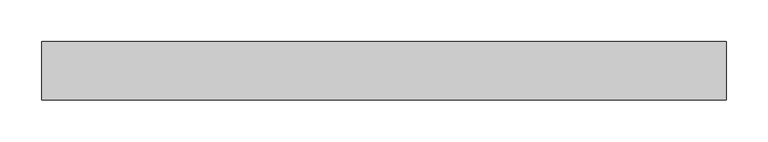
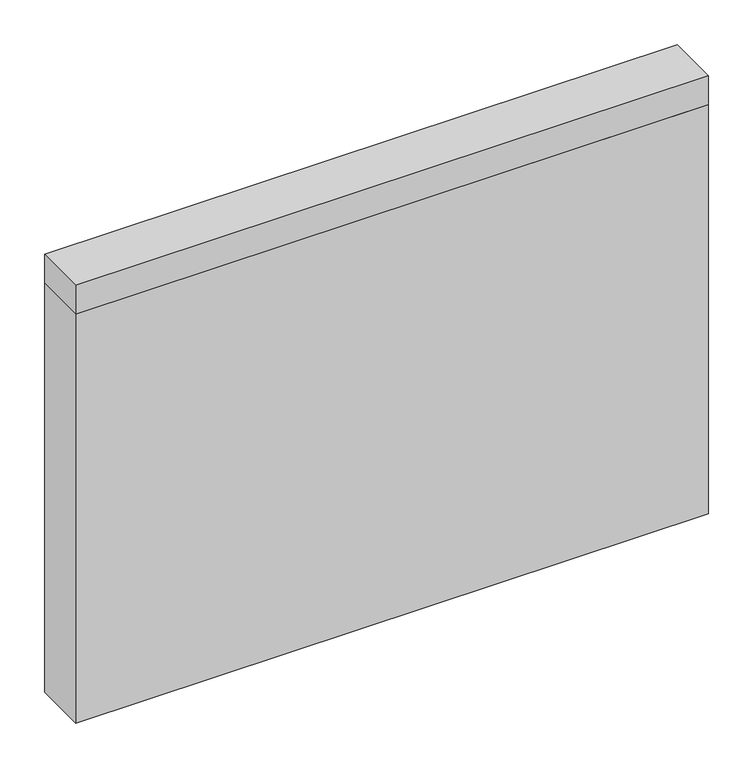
"""IFC4 building model written with IfcOpenShell, lengths in millimetres: plate geometry, 営_パーティションパネル_上部 : パーティションパネル_上部."""

from ifc_helpers import new_model, si_unit, frame, origin, origin_with_axes, place, context, project, spatial, polyline, outline, extrude, source, transform, mapped, element, save


def plate_7cd72466(model_context):
    return source(origin(), model_context, "Body", "SweptSolid", [
        extrude(outline(polyline([(-410.0000002, -35.0), (-410.0000002, 35.0), (410.0000002, 35.0), (410.0000002, -35.0), (-410.0000002, -35.0)])), origin_with_axes(), (0.0, 0.0, 1.0), 560.0),
        extrude(outline(polyline([(-410.0000002, -35.0), (-410.0000002, 35.0), (410.0000002, 35.0), (410.0000002, -35.0), (-410.0000002, -35.0)])), frame((0.0, 0.0, 560.0), z_axis=(0.0, 0.0, 1.0), x_axis=(1.0, 0.0, 0.0)), (0.0, 0.0, 1.0), 40.0),
    ])


if __name__ == "__main__":
    model = new_model("IFC4")
    model_context = context("Model", 3, world=origin())
    ifc_project = project(units=[si_unit("LENGTHUNIT", "METRE", prefix="MILLI")], contexts=[model_context])
    site = spatial("IfcSite", under=ifc_project)
    building = spatial("IfcBuilding", under=site)
    placement = place(None, origin())
    plate_shape = plate_7cd72466(model_context)
    element("IfcPlate", 1, ObjectType="営_パーティションパネル_上部 : パーティションパネル_上部", at=placement, inside=building, context=model_context, shape_type="MappedRepresentation", body=[
        mapped(plate_shape, transform((0.0, 0.0, 0.0), x_axis=(1.0, 0.0, 0.0), y_axis=(0.0, 1.0, 0.0), z_axis=(0.0, 0.0, 1.0))),
    ])
    save(model, "model.ifc")
